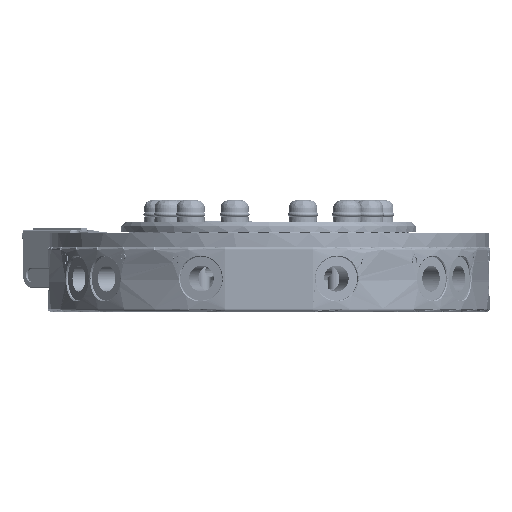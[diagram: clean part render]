
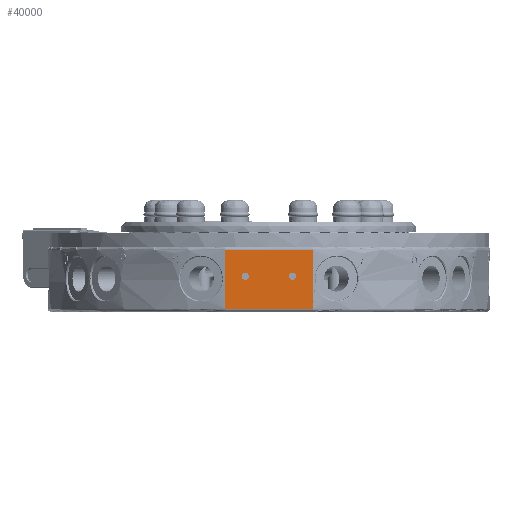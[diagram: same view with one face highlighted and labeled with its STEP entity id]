
A CAD part, front view. The second image highlights one B-rep face of the part: STEP entity #40000.
In plain terms, the highlighted planar face has unit normal (0, -1, 0).
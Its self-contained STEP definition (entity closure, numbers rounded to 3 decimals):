
#7993 = ORIENTED_EDGE ( 'NONE', *, *, #133488, .F. ) ;
#9750 = ORIENTED_EDGE ( 'NONE', *, *, #64934, .F. ) ;
#10596 = DIRECTION ( 'NONE',  ( -1., 0., 0. ) ) ;
#11565 = CARTESIAN_POINT ( 'NONE',  ( -14.925, -73.5, -29.4 ) ) ;
#12699 = EDGE_CURVE ( 'NONE', #76288, #36254, #68744, .T. ) ;
#14100 = CIRCLE ( 'NONE', #149863, 1.25 ) ;
#15277 = EDGE_CURVE ( 'NONE', #93326, #99967, #88660, .T. ) ;
#15792 = EDGE_LOOP ( 'NONE', ( #7993, #87784 ) ) ;
#18314 = CARTESIAN_POINT ( 'NONE',  ( -6.75, -73.5, -18.4 ) ) ;
#23006 = ORIENTED_EDGE ( 'NONE', *, *, #156117, .F. ) ;
#24223 = CIRCLE ( 'NONE', #162346, 1.25 ) ;
#28093 = CARTESIAN_POINT ( 'NONE',  ( -14.925, -73.5, -9.4 ) ) ;
#30327 = VECTOR ( 'NONE', #64176, 1000. ) ;
#33281 = LINE ( 'NONE', #40926, #158522 ) ;
#36254 = VERTEX_POINT ( 'NONE', #28093 ) ;
#38556 = ORIENTED_EDGE ( 'NONE', *, *, #15277, .F. ) ;
#39904 = DIRECTION ( 'NONE',  ( 0., -1., 0. ) ) ;
#40000 = ADVANCED_FACE ( 'NONE', ( #77633, #111920, #43261 ), #68299, .F. ) ;
#40926 = CARTESIAN_POINT ( 'NONE',  ( -75., -73.5, -9.4 ) ) ;
#42865 = DIRECTION ( 'NONE',  ( 0., 1., 0. ) ) ;
#43261 = FACE_OUTER_BOUND ( 'NONE', #103866, .T. ) ;
#44054 = ORIENTED_EDGE ( 'NONE', *, *, #71986, .F. ) ;
#49316 = ORIENTED_EDGE ( 'NONE', *, *, #12699, .F. ) ;
#49380 = CARTESIAN_POINT ( 'NONE',  ( -8., -73.5, -18.4 ) ) ;
#53349 = DIRECTION ( 'NONE',  ( 1., 0., 0. ) ) ;
#56478 = DIRECTION ( 'NONE',  ( 0., -1., 0. ) ) ;
#58292 = VERTEX_POINT ( 'NONE', #63446 ) ;
#62387 = DIRECTION ( 'NONE',  ( 1., 0., 0. ) ) ;
#63446 = CARTESIAN_POINT ( 'NONE',  ( -9.25, -73.5, -18.4 ) ) ;
#64176 = DIRECTION ( 'NONE',  ( 0., 0., 1. ) ) ;
#64934 = EDGE_CURVE ( 'NONE', #99967, #93326, #24223, .T. ) ;
#65413 = AXIS2_PLACEMENT_3D ( 'NONE', #94228, #42865, #133204 ) ;
#68299 = PLANE ( 'NONE',  #65413 ) ;
#68744 = LINE ( 'NONE', #77206, #30327 ) ;
#71921 = EDGE_CURVE ( 'NONE', #36254, #129581, #33281, .T. ) ;
#71986 = EDGE_CURVE ( 'NONE', #91494, #76288, #85767, .T. ) ;
#76288 = VERTEX_POINT ( 'NONE', #11565 ) ;
#77206 = CARTESIAN_POINT ( 'NONE',  ( -14.925, -73.5, -29.7 ) ) ;
#77364 = CARTESIAN_POINT ( 'NONE',  ( 14.925, -73.5, -22.733 ) ) ;
#77633 = FACE_BOUND ( 'NONE', #15792, .T. ) ;
#85767 = LINE ( 'NONE', #93966, #120079 ) ;
#87784 = ORIENTED_EDGE ( 'NONE', *, *, #143314, .F. ) ;
#88011 = DIRECTION ( 'NONE',  ( 0., -1., 0. ) ) ;
#88660 = CIRCLE ( 'NONE', #103479, 1.25 ) ;
#89179 = CARTESIAN_POINT ( 'NONE',  ( 14.925, -73.5, -9.4 ) ) ;
#91494 = VERTEX_POINT ( 'NONE', #96904 ) ;
#93326 = VERTEX_POINT ( 'NONE', #129507 ) ;
#93966 = CARTESIAN_POINT ( 'NONE',  ( -75., -73.5, -29.4 ) ) ;
#94228 = CARTESIAN_POINT ( 'NONE',  ( -75., -73.5, -29.7 ) ) ;
#95904 = ORIENTED_EDGE ( 'NONE', *, *, #71921, .F. ) ;
#96904 = CARTESIAN_POINT ( 'NONE',  ( 14.925, -73.5, -29.4 ) ) ;
#97136 = B_SPLINE_CURVE_WITH_KNOTS ( 'NONE', 3,
 ( #89179, #141695, #77364, #167695 ),
 .UNSPECIFIED., .F., .F.,
 ( 4, 4 ),
 ( 0., 1. ),
 .UNSPECIFIED. ) ;
#99689 = EDGE_LOOP ( 'NONE', ( #38556, #9750 ) ) ;
#99967 = VERTEX_POINT ( 'NONE', #150787 ) ;
#103479 = AXIS2_PLACEMENT_3D ( 'NONE', #133864, #56478, #146848 ) ;
#103866 = EDGE_LOOP ( 'NONE', ( #95904, #49316, #44054, #23006 ) ) ;
#106939 = DIRECTION ( 'NONE',  ( -1., 0., 0. ) ) ;
#110765 = CIRCLE ( 'NONE', #164779, 1.25 ) ;
#111044 = VERTEX_POINT ( 'NONE', #18314 ) ;
#111920 = FACE_BOUND ( 'NONE', #99689, .T. ) ;
#117243 = CARTESIAN_POINT ( 'NONE',  ( -8., -73.5, -18.4 ) ) ;
#120079 = VECTOR ( 'NONE', #106939, 1000. ) ;
#129507 = CARTESIAN_POINT ( 'NONE',  ( 9.25, -73.5, -18.4 ) ) ;
#129581 = VERTEX_POINT ( 'NONE', #163679 ) ;
#130247 = DIRECTION ( 'NONE',  ( 1., 0., 0. ) ) ;
#133204 = DIRECTION ( 'NONE',  ( -1., 0., 0. ) ) ;
#133488 = EDGE_CURVE ( 'NONE', #111044, #58292, #14100, .T. ) ;
#133864 = CARTESIAN_POINT ( 'NONE',  ( 8., -73.5, -18.4 ) ) ;
#139731 = DIRECTION ( 'NONE',  ( 0., -1., 0. ) ) ;
#141695 = CARTESIAN_POINT ( 'NONE',  ( 14.925, -73.5, -16.067 ) ) ;
#143314 = EDGE_CURVE ( 'NONE', #58292, #111044, #110765, .T. ) ;
#146848 = DIRECTION ( 'NONE',  ( -1., 0., 0. ) ) ;
#149863 = AXIS2_PLACEMENT_3D ( 'NONE', #49380, #139731, #62387 ) ;
#150787 = CARTESIAN_POINT ( 'NONE',  ( 6.75, -73.5, -18.4 ) ) ;
#156117 = EDGE_CURVE ( 'NONE', #129581, #91494, #97136, .T. ) ;
#158522 = VECTOR ( 'NONE', #53349, 1000. ) ;
#162346 = AXIS2_PLACEMENT_3D ( 'NONE', #165413, #88011, #10596 ) ;
#163679 = CARTESIAN_POINT ( 'NONE',  ( 14.925, -73.5, -9.4 ) ) ;
#164779 = AXIS2_PLACEMENT_3D ( 'NONE', #117243, #39904, #130247 ) ;
#165413 = CARTESIAN_POINT ( 'NONE',  ( 8., -73.5, -18.4 ) ) ;
#167695 = CARTESIAN_POINT ( 'NONE',  ( 14.925, -73.5, -29.4 ) ) ;
